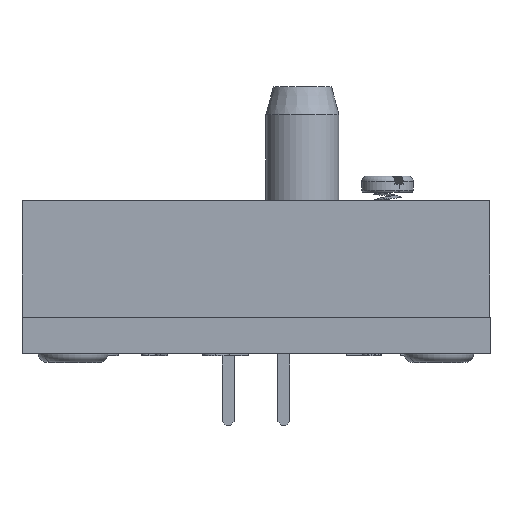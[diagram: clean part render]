
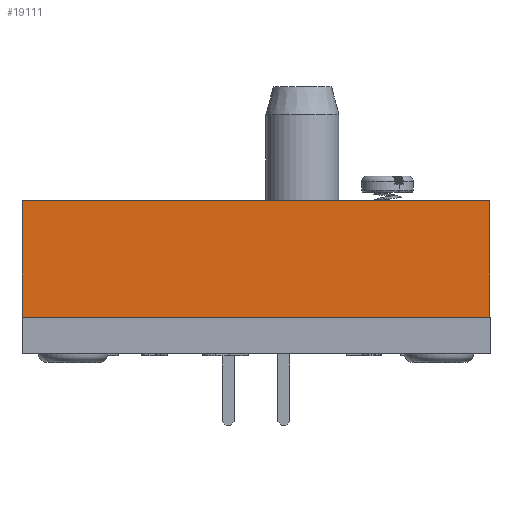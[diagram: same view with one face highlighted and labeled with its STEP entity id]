
A CAD part, front view. The second image highlights one B-rep face of the part: STEP entity #19111.
In plain terms, the highlighted planar face has unit normal (0, -1, 0).
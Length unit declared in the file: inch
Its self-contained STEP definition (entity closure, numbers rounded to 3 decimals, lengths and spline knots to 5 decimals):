
#718 = FACE_OUTER_BOUND ( 'NONE', #30377, .T. ) ;
#3047 = LINE ( 'NONE', #22894, #18146 ) ;
#4621 = LINE ( 'NONE', #18532, #25824 ) ;
#5607 = CARTESIAN_POINT ( 'NONE',  ( 0.50262, -0.53897, -0.09991 ) ) ;
#5852 = DIRECTION ( 'NONE',  ( -1., 0., 0. ) ) ;
#7028 = DIRECTION ( 'NONE',  ( 0., 0., -1. ) ) ;
#8854 = EDGE_CURVE ( 'NONE', #9623, #23897, #4621, .T. ) ;
#9623 = VERTEX_POINT ( 'NONE', #30901 ) ;
#9830 = VERTEX_POINT ( 'NONE', #38624 ) ;
#11852 = LINE ( 'NONE', #5607, #26908 ) ;
#12467 = DIRECTION ( 'NONE',  ( 0., 0., -1. ) ) ;
#13906 = EDGE_CURVE ( 'NONE', #30883, #23897, #11852, .T. ) ;
#15363 = ORIENTED_EDGE ( 'NONE', *, *, #8854, .F. ) ;
#16746 = LINE ( 'NONE', #31150, #31823 ) ;
#18146 = VECTOR ( 'NONE', #34985, 39.37008 ) ;
#18532 = CARTESIAN_POINT ( 'NONE',  ( 0.50262, -0.53897, 0.15009 ) ) ;
#19111 = ADVANCED_FACE ( 'NONE', ( #718 ), #35878, .F. ) ;
#19984 = EDGE_CURVE ( 'NONE', #9830, #9623, #3047, .T. ) ;
#20422 = AXIS2_PLACEMENT_3D ( 'NONE', #35477, #23905, #5852 ) ;
#22894 = CARTESIAN_POINT ( 'NONE',  ( 0.50262, -0.53897, 0.15009 ) ) ;
#23798 = DIRECTION ( 'NONE',  ( 1., 0., 0. ) ) ;
#23897 = VERTEX_POINT ( 'NONE', #38115 ) ;
#23905 = DIRECTION ( 'NONE',  ( 0., 1., 0. ) ) ;
#25279 = CARTESIAN_POINT ( 'NONE',  ( -0.49738, -0.53897, -0.09991 ) ) ;
#25824 = VECTOR ( 'NONE', #12467, 39.37008 ) ;
#26908 = VECTOR ( 'NONE', #23798, 39.37008 ) ;
#28430 = EDGE_CURVE ( 'NONE', #9830, #30883, #16746, .T. ) ;
#30377 = EDGE_LOOP ( 'NONE', ( #36098, #15363, #38410, #37480 ) ) ;
#30883 = VERTEX_POINT ( 'NONE', #25279 ) ;
#30901 = CARTESIAN_POINT ( 'NONE',  ( 0.50262, -0.53897, 0.15009 ) ) ;
#31150 = CARTESIAN_POINT ( 'NONE',  ( -0.49738, -0.53897, 0.15009 ) ) ;
#31823 = VECTOR ( 'NONE', #7028, 39.37008 ) ;
#34985 = DIRECTION ( 'NONE',  ( 1., 0., 0. ) ) ;
#35477 = CARTESIAN_POINT ( 'NONE',  ( 0.50262, -0.53897, 0.15009 ) ) ;
#35878 = PLANE ( 'NONE',  #20422 ) ;
#36098 = ORIENTED_EDGE ( 'NONE', *, *, #13906, .T. ) ;
#37480 = ORIENTED_EDGE ( 'NONE', *, *, #28430, .T. ) ;
#38115 = CARTESIAN_POINT ( 'NONE',  ( 0.50262, -0.53897, -0.09991 ) ) ;
#38410 = ORIENTED_EDGE ( 'NONE', *, *, #19984, .F. ) ;
#38624 = CARTESIAN_POINT ( 'NONE',  ( -0.49738, -0.53897, 0.15009 ) ) ;
